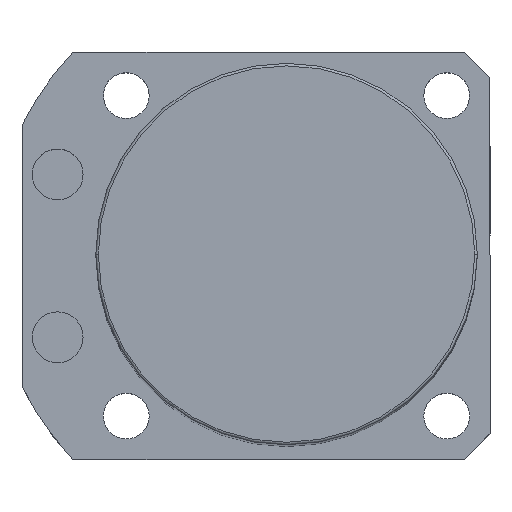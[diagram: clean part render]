
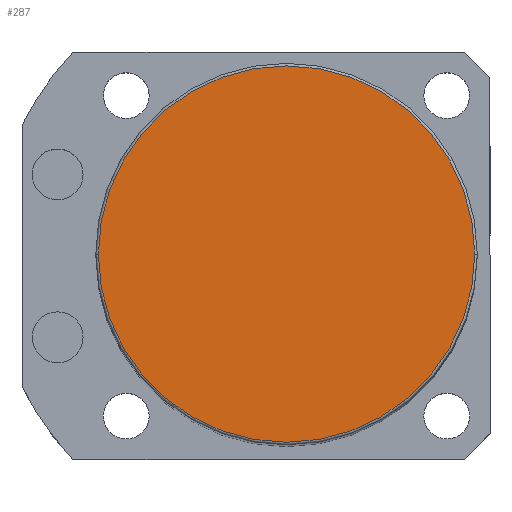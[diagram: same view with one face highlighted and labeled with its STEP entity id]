
A CAD part, top view. The second image highlights one B-rep face of the part: STEP entity #287.
In plain terms, the highlighted planar face has unit normal (0, 0, 1).
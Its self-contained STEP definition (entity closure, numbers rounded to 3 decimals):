
#31 = DIRECTION ( 'NONE',  ( 0., 0., 1. ) ) ;
#194 = EDGE_CURVE ( 'NONE', #495, #1744, #1040, .T. ) ;
#241 = FACE_OUTER_BOUND ( 'NONE', #1962, .T. ) ;
#287 = ADVANCED_FACE ( 'NONE', ( #241 ), #1571, .T. ) ;
#367 = AXIS2_PLACEMENT_3D ( 'NONE', #1336, #1346, #2034 ) ;
#495 = VERTEX_POINT ( 'NONE', #807 ) ;
#497 = AXIS2_PLACEMENT_3D ( 'NONE', #1568, #31, #712 ) ;
#581 = DIRECTION ( 'NONE',  ( 0., 0., 1. ) ) ;
#594 = CARTESIAN_POINT ( 'NONE',  ( 0., 0., 220.5 ) ) ;
#712 = DIRECTION ( 'NONE',  ( 1., 0., 0. ) ) ;
#721 = EDGE_CURVE ( 'NONE', #1744, #495, #1309, .T. ) ;
#734 = CARTESIAN_POINT ( 'NONE',  ( -37., 0., 220.5 ) ) ;
#765 = AXIS2_PLACEMENT_3D ( 'NONE', #594, #581, #2112 ) ;
#807 = CARTESIAN_POINT ( 'NONE',  ( 37., 0., 220.5 ) ) ;
#1040 = CIRCLE ( 'NONE', #765, 37. ) ;
#1056 = ORIENTED_EDGE ( 'NONE', *, *, #721, .T. ) ;
#1309 = CIRCLE ( 'NONE', #497, 37. ) ;
#1336 = CARTESIAN_POINT ( 'NONE',  ( 0., 0., 220.5 ) ) ;
#1346 = DIRECTION ( 'NONE',  ( 0., 0., 1. ) ) ;
#1568 = CARTESIAN_POINT ( 'NONE',  ( 0., 0., 220.5 ) ) ;
#1571 = PLANE ( 'NONE',  #367 ) ;
#1744 = VERTEX_POINT ( 'NONE', #734 ) ;
#1962 = EDGE_LOOP ( 'NONE', ( #2071, #1056 ) ) ;
#2034 = DIRECTION ( 'NONE',  ( 1., 0., 0. ) ) ;
#2071 = ORIENTED_EDGE ( 'NONE', *, *, #194, .T. ) ;
#2112 = DIRECTION ( 'NONE',  ( 1., 0., 0. ) ) ;
